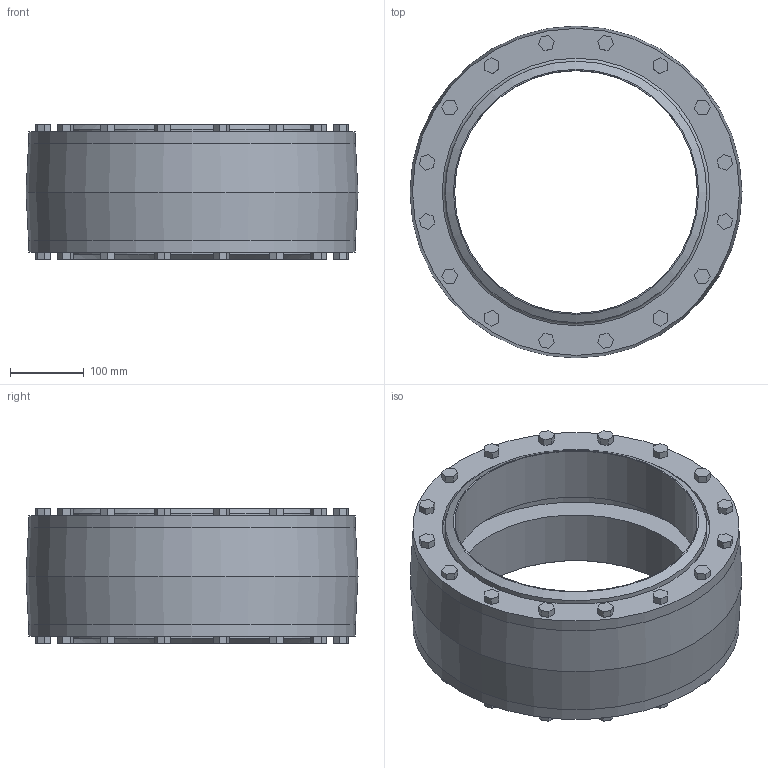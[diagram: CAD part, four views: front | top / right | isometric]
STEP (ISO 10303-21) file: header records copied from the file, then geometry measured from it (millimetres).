
FILE_DESCRIPTION(/* description */ ('VIC EXPANSION JOINT COUPLING 152-A','CAx-IF Rec.Pracs.---Representation and Presentation of Product Manufacturing Information (PMI)---4.0---2014-10-13'),/* implementation_level */ '2;1');
FILE_NAME(/* name */ 'C:\Users\kkamble\AppData\Roaming\Autodesk\ApplicationPlugins\Back Up\Victaulic_Vic-Ring_Coupling Expansion Joint_Style 152A (OGR)\Victaulic_Vic-Ring_Coupling Expansion Joint_Style 152A (OGR)_14 (350).stp',/* time_stamp */ '2020-09-10T11:33:47+05:00',/* author */ ('jheald'),/* organization */ ('Victaulic'),/* preprocessor_version */ 'ST-DEVELOPER v17.2',/* originating_system */ 'Autodesk Inventor 2019',/* authorisation */ '');
FILE_SCHEMA (('AP242_MANAGED_MODEL_BASED_3D_ENGINEERING_MIM_LF { 1 0 10303 442 1 1 4 }'));
Length unit declared in the file: inch
Products named in the file (1): 152A-14.0
Bounding box: 451.38 x 451.38 x 182.63 mm (x, y, z)
Volume: 10195702.7 mm3; surface area: 1044879.2 mm2
Topology: 1 solids, 1 shells, 261 faces, 675 edges, 460 vertices
Faces by surface type: plane 238, cylinder 15, cone 6, torus 2
Full cylindrical faces by diameter (mm): 330.2 x2, 355.6 x2, 363.728 x2, 370.078 x2, 390.652 x4, 393.7 x1, 444.5 x2
Entity records: 8320 total; most frequent: CARTESIAN_POINT 1414, ORIENTED_EDGE 1350, DIRECTION 1303, EDGE_CURVE 675, LINE 597, VECTOR 597, VERTEX_POINT 460, AXIS2_PLACEMENT_3D 353
